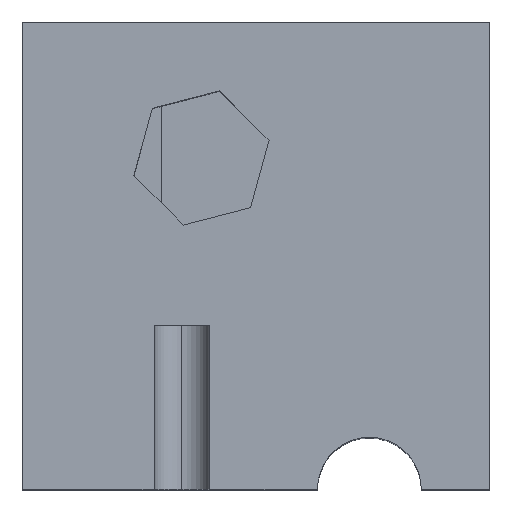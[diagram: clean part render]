
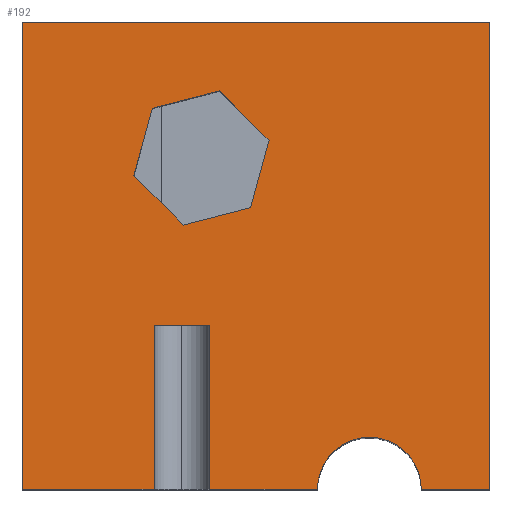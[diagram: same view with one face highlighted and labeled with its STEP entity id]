
A CAD part, top view. The second image highlights one B-rep face of the part: STEP entity #192.
In plain terms, the highlighted planar face has unit normal (0, 0, 1).
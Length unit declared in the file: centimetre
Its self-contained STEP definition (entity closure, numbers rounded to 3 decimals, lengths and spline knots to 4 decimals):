
#7 = EDGE_CURVE ( 'NONE', #1046, #694, #684, .T. ) ;
#16 = CARTESIAN_POINT ( 'NONE',  ( 853.8204, 0., 1000. ) ) ;
#19 = CARTESIAN_POINT ( 'NONE',  ( 0., 0., 1000. ) ) ;
#22 = LINE ( 'NONE', #104, #967 ) ;
#25 = DIRECTION ( 'NONE',  ( 1., 0., 0. ) ) ;
#28 = ORIENTED_EDGE ( 'NONE', *, *, #690, .T. ) ;
#34 = CARTESIAN_POINT ( 'NONE',  ( 1000., 1000., 1000. ) ) ;
#35 = VERTEX_POINT ( 'NONE', #261 ) ;
#54 = DIRECTION ( 'NONE',  ( 0.265, 0.964, 0. ) ) ;
#71 = EDGE_CURVE ( 'NONE', #424, #1056, #374, .T. ) ;
#72 = DIRECTION ( 'NONE',  ( -0.707, 0.707, 0. ) ) ;
#73 = CARTESIAN_POINT ( 'NONE',  ( 0., 351.1813, 1000. ) ) ;
#75 = CARTESIAN_POINT ( 'NONE',  ( 0., 0., 1000. ) ) ;
#100 = EDGE_LOOP ( 'NONE', ( #593, #240, #494, #1028, #28, #170, #697, #1122, #587, #521 ) ) ;
#104 = CARTESIAN_POINT ( 'NONE',  ( 0., 0., 1000. ) ) ;
#135 = CARTESIAN_POINT ( 'NONE',  ( 527.8679, 746.8222, 1000. ) ) ;
#136 = VECTOR ( 'NONE', #481, 100. ) ;
#146 = CARTESIAN_POINT ( 'NONE',  ( 488.2979, 602.5902, 1000. ) ) ;
#148 = EDGE_CURVE ( 'NONE', #286, #855, #506, .T. ) ;
#153 = VECTOR ( 'NONE', #826, 100. ) ;
#156 = VECTOR ( 'NONE', #72, 100. ) ;
#165 = LINE ( 'NONE', #146, #575 ) ;
#166 = VERTEX_POINT ( 'NONE', #16 ) ;
#170 = ORIENTED_EDGE ( 'NONE', *, *, #1037, .T. ) ;
#174 = VECTOR ( 'NONE', #959, 100. ) ;
#192 = ADVANCED_FACE ( 'NONE', ( #1010, #763 ), #842, .T. ) ;
#197 = DIRECTION ( 'NONE',  ( 1., 0., 0. ) ) ;
#211 = EDGE_LOOP ( 'NONE', ( #1136, #885, #1040, #476, #801, #524 ) ) ;
#213 = VECTOR ( 'NONE', #860, 100. ) ;
#214 = LINE ( 'NONE', #306, #706 ) ;
#222 = DIRECTION ( 'NONE',  ( 0., 0., 1. ) ) ;
#235 = CARTESIAN_POINT ( 'NONE',  ( 422.1138, 852.5763, 1000. ) ) ;
#240 = ORIENTED_EDGE ( 'NONE', *, *, #579, .T. ) ;
#246 = DIRECTION ( 'NONE',  ( 1., 0., 0. ) ) ;
#258 = CARTESIAN_POINT ( 'NONE',  ( 281.7901, 0., 1000. ) ) ;
#261 = CARTESIAN_POINT ( 'NONE',  ( 0., 0., 1000. ) ) ;
#285 = LINE ( 'NONE', #452, #295 ) ;
#286 = VERTEX_POINT ( 'NONE', #315 ) ;
#295 = VECTOR ( 'NONE', #647, 100. ) ;
#306 = CARTESIAN_POINT ( 'NONE',  ( 0., 1000., 1000. ) ) ;
#311 = CARTESIAN_POINT ( 'NONE',  ( 488.2979, 602.5902, 1000. ) ) ;
#315 = CARTESIAN_POINT ( 'NONE',  ( 400.4995, 351.1813, 1000. ) ) ;
#326 = VECTOR ( 'NONE', #246, 100. ) ;
#334 = CARTESIAN_POINT ( 'NONE',  ( 0., 1000., 1000. ) ) ;
#339 = LINE ( 'NONE', #1034, #213 ) ;
#346 = AXIS2_PLACEMENT_3D ( 'NONE', #681, #598, #498 ) ;
#355 = CARTESIAN_POINT ( 'NONE',  ( 631.5675, 0., 1000. ) ) ;
#360 = DIRECTION ( 'NONE',  ( -0.265, -0.964, 0. ) ) ;
#371 = EDGE_CURVE ( 'NONE', #538, #496, #339, .T. ) ;
#374 = LINE ( 'NONE', #649, #713 ) ;
#393 = VERTEX_POINT ( 'NONE', #334 ) ;
#407 = AXIS2_PLACEMENT_3D ( 'NONE', #19, #222, #25 ) ;
#424 = VERTEX_POINT ( 'NONE', #817 ) ;
#433 = DIRECTION ( 'NONE',  ( 1., 0., 0. ) ) ;
#440 = CARTESIAN_POINT ( 'NONE',  ( 344.2349, 565.3734, 1000. ) ) ;
#452 = CARTESIAN_POINT ( 'NONE',  ( 0., 1000., 1000. ) ) ;
#456 = CARTESIAN_POINT ( 'NONE',  ( 278.0508, 815.3595, 1000. ) ) ;
#472 = EDGE_CURVE ( 'NONE', #286, #538, #625, .T. ) ;
#476 = ORIENTED_EDGE ( 'NONE', *, *, #833, .F. ) ;
#481 = DIRECTION ( 'NONE',  ( 0., -1., 0. ) ) ;
#494 = ORIENTED_EDGE ( 'NONE', *, *, #945, .T. ) ;
#496 = VERTEX_POINT ( 'NONE', #258 ) ;
#498 = DIRECTION ( 'NONE',  ( 1., 0., 0. ) ) ;
#501 = CARTESIAN_POINT ( 'NONE',  ( 400.4995, 351.1813, 1000. ) ) ;
#506 = LINE ( 'NONE', #501, #136 ) ;
#521 = ORIENTED_EDGE ( 'NONE', *, *, #871, .T. ) ;
#524 = ORIENTED_EDGE ( 'NONE', *, *, #978, .F. ) ;
#528 = EDGE_CURVE ( 'NONE', #716, #393, #285, .T. ) ;
#538 = VERTEX_POINT ( 'NONE', #729 ) ;
#575 = VECTOR ( 'NONE', #54, 100. ) ;
#579 = EDGE_CURVE ( 'NONE', #166, #786, #22, .T. ) ;
#587 = ORIENTED_EDGE ( 'NONE', *, *, #148, .T. ) ;
#593 = ORIENTED_EDGE ( 'NONE', *, *, #698, .F. ) ;
#596 = VECTOR ( 'NONE', #433, 100. ) ;
#597 = LINE ( 'NONE', #603, #174 ) ;
#598 = DIRECTION ( 'NONE',  ( 0., 0., 1. ) ) ;
#603 = CARTESIAN_POINT ( 'NONE',  ( 1000., 1000., 1000. ) ) ;
#609 = CARTESIAN_POINT ( 'NONE',  ( 422.1138, 852.5763, 1000. ) ) ;
#625 = LINE ( 'NONE', #73, #153 ) ;
#645 = CARTESIAN_POINT ( 'NONE',  ( 1000., 0., 1000. ) ) ;
#647 = DIRECTION ( 'NONE',  ( -1., 0., 0. ) ) ;
#649 = CARTESIAN_POINT ( 'NONE',  ( 238.4808, 671.1275, 1000. ) ) ;
#656 = VECTOR ( 'NONE', #983, 100. ) ;
#681 = CARTESIAN_POINT ( 'NONE',  ( 742.6939, 0., 1000. ) ) ;
#684 = LINE ( 'NONE', #235, #656 ) ;
#690 = EDGE_CURVE ( 'NONE', #393, #35, #214, .T. ) ;
#692 = LINE ( 'NONE', #961, #596 ) ;
#694 = VERTEX_POINT ( 'NONE', #1019 ) ;
#697 = ORIENTED_EDGE ( 'NONE', *, *, #371, .F. ) ;
#698 = EDGE_CURVE ( 'NONE', #166, #784, #730, .T. ) ;
#706 = VECTOR ( 'NONE', #1124, 100. ) ;
#713 = VECTOR ( 'NONE', #921, 100. ) ;
#716 = VERTEX_POINT ( 'NONE', #34 ) ;
#722 = VERTEX_POINT ( 'NONE', #311 ) ;
#729 = CARTESIAN_POINT ( 'NONE',  ( 281.7901, 351.1813, 1000. ) ) ;
#730 = CIRCLE ( 'NONE', #346, 111.1265 ) ;
#763 = FACE_OUTER_BOUND ( 'NONE', #100, .T. ) ;
#784 = VERTEX_POINT ( 'NONE', #355 ) ;
#786 = VERTEX_POINT ( 'NONE', #645 ) ;
#796 = DIRECTION ( 'NONE',  ( 0.968, 0.25, 0. ) ) ;
#798 = LINE ( 'NONE', #1036, #156 ) ;
#801 = ORIENTED_EDGE ( 'NONE', *, *, #7, .F. ) ;
#817 = CARTESIAN_POINT ( 'NONE',  ( 238.4808, 671.1275, 1000. ) ) ;
#826 = DIRECTION ( 'NONE',  ( -1., 0., 0. ) ) ;
#833 = EDGE_CURVE ( 'NONE', #694, #424, #904, .T. ) ;
#842 = PLANE ( 'NONE',  #407 ) ;
#855 = VERTEX_POINT ( 'NONE', #1081 ) ;
#860 = DIRECTION ( 'NONE',  ( 0., -1., 0. ) ) ;
#871 = EDGE_CURVE ( 'NONE', #855, #784, #692, .T. ) ;
#872 = EDGE_CURVE ( 'NONE', #722, #963, #165, .T. ) ;
#880 = VECTOR ( 'NONE', #360, 100. ) ;
#885 = ORIENTED_EDGE ( 'NONE', *, *, #915, .F. ) ;
#887 = CARTESIAN_POINT ( 'NONE',  ( 344.2349, 565.3734, 1000. ) ) ;
#891 = LINE ( 'NONE', #887, #1132 ) ;
#904 = LINE ( 'NONE', #456, #880 ) ;
#915 = EDGE_CURVE ( 'NONE', #1056, #722, #891, .T. ) ;
#921 = DIRECTION ( 'NONE',  ( 0.707, -0.707, 0. ) ) ;
#945 = EDGE_CURVE ( 'NONE', #786, #716, #597, .T. ) ;
#959 = DIRECTION ( 'NONE',  ( 0., 1., 0. ) ) ;
#961 = CARTESIAN_POINT ( 'NONE',  ( 0., 0., 1000. ) ) ;
#963 = VERTEX_POINT ( 'NONE', #135 ) ;
#967 = VECTOR ( 'NONE', #197, 100. ) ;
#978 = EDGE_CURVE ( 'NONE', #963, #1046, #798, .T. ) ;
#983 = DIRECTION ( 'NONE',  ( -0.968, -0.25, 0. ) ) ;
#1010 = FACE_BOUND ( 'NONE', #211, .T. ) ;
#1019 = CARTESIAN_POINT ( 'NONE',  ( 278.0508, 815.3595, 1000. ) ) ;
#1028 = ORIENTED_EDGE ( 'NONE', *, *, #528, .T. ) ;
#1034 = CARTESIAN_POINT ( 'NONE',  ( 281.7901, 351.1813, 1000. ) ) ;
#1036 = CARTESIAN_POINT ( 'NONE',  ( 527.8679, 746.8222, 1000. ) ) ;
#1037 = EDGE_CURVE ( 'NONE', #35, #496, #1060, .T. ) ;
#1040 = ORIENTED_EDGE ( 'NONE', *, *, #71, .F. ) ;
#1046 = VERTEX_POINT ( 'NONE', #609 ) ;
#1056 = VERTEX_POINT ( 'NONE', #440 ) ;
#1060 = LINE ( 'NONE', #75, #326 ) ;
#1081 = CARTESIAN_POINT ( 'NONE',  ( 400.4995, 0., 1000. ) ) ;
#1122 = ORIENTED_EDGE ( 'NONE', *, *, #472, .F. ) ;
#1124 = DIRECTION ( 'NONE',  ( 0., -1., 0. ) ) ;
#1132 = VECTOR ( 'NONE', #796, 100. ) ;
#1136 = ORIENTED_EDGE ( 'NONE', *, *, #872, .F. ) ;
